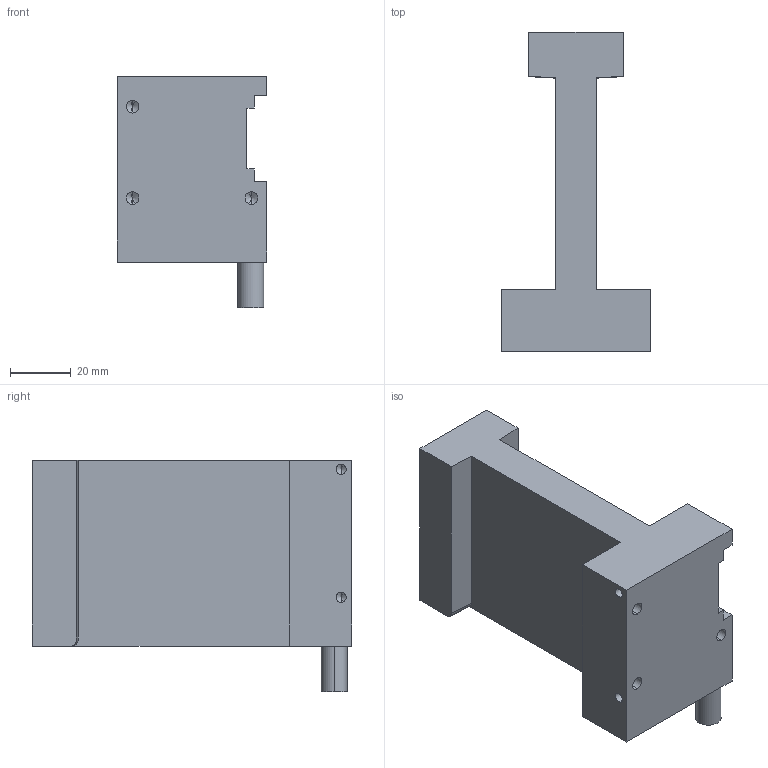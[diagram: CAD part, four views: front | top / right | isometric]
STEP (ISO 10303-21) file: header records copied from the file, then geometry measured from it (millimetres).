
FILE_DESCRIPTION (( 'STEP AP214' ), '1' );
FILE_NAME ('JKA51.STEP', '2025-09-05T08:48:18', ( '' ), ( '' ), 'SwSTEP 2.0', 'SolidWorks 2016', '' );
FILE_SCHEMA (( 'AUTOMOTIVE_DESIGN' ));
Length unit declared in the file: millimetre
Products named in the file (1): JKA51
Bounding box: 49 x 104.8 x 76 mm (x, y, z)
Volume: 140975.4 mm3; surface area: 27064.2 mm2
Topology: 1 solids, 1 shells, 75 faces, 199 edges, 117 vertices
Faces by surface type: plane 29, cylinder 28, cone 18
Entity records: 2445 total; most frequent: CARTESIAN_POINT 420, DIRECTION 379, ORIENTED_EDGE 362, EDGE_CURVE 181, AXIS2_PLACEMENT_3D 128, VECTOR 123, LINE 123, VERTEX_POINT 117
